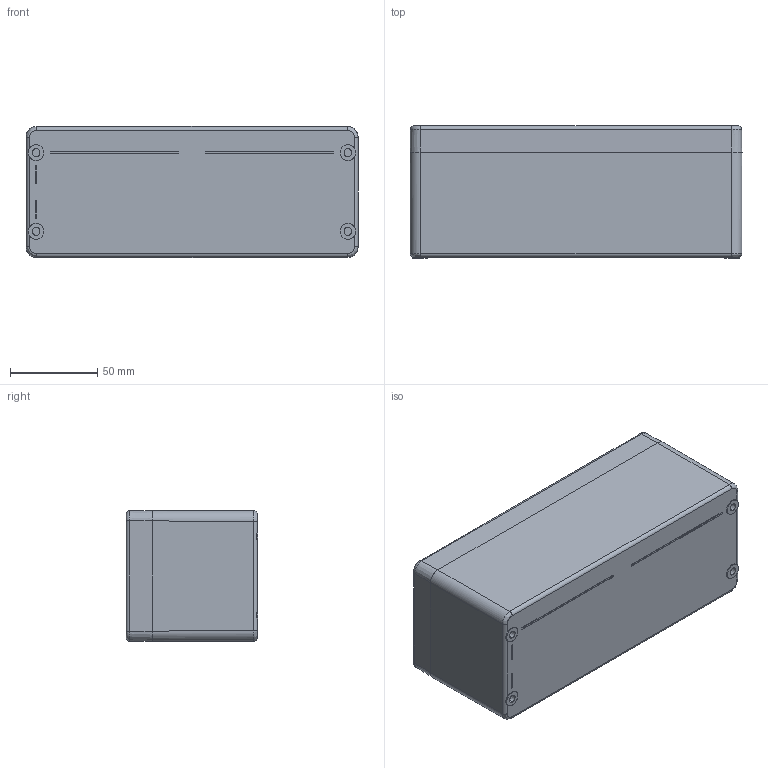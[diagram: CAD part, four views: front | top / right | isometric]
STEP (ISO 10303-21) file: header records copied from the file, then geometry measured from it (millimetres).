
FILE_DESCRIPTION((''),'2;1');
FILE_NAME('4190000050_ASM','2023-01-02T12:25:06',('silke.otte'),(''),'CREO PARAMETRIC BY PTC INC, 2022124','CREO PARAMETRIC BY PTC INC, 2022124','');
FILE_SCHEMA(('AUTOMOTIVE_DESIGN { 1 0 10303 214 1 1 1 1 }'));
Length unit declared in the file: millimetre
Products named in the file (13): 9331034000; EINPRESSMUTTER_M4; EINPRESSMUTTER_M4_AF8; EINPRESSMUTTER_M4_AF9; EINPRESSMUTTER_M4_AF10; EINPRESSMUTTER_M4_AF11; 9331034000_ASM; 9332004000; CP-DICHTUNG; 9614003400_ASM; 9262004000; 9261014000; 4190000050_ASM
Assembly tree (19 placements, depth 3):
  4190000050_ASM
    9331034000_ASM
      9331034000
      EINPRESSMUTTER_M4  x2
      EINPRESSMUTTER_M4_AF8
      EINPRESSMUTTER_M4_AF9
      EINPRESSMUTTER_M4_AF10
      EINPRESSMUTTER_M4_AF11
    9614003400_ASM
      9332004000
      CP-DICHTUNG
    9262004000  x4
    9261014000  x4
Bounding box: 190 x 75.5 x 75 mm (x, y, z)
Volume: 283368.3 mm3; surface area: 144120.7 mm2
Topology: 17 solids, 27 shells, 683 faces, 1809 edges, 1206 vertices
Faces by surface type: plane 285, cone 184, cylinder 166, bspline 24, torus 24
Entity records: 26936 total; most frequent: CARTESIAN_POINT 4052, DIRECTION 3301, ORIENTED_EDGE 2278, PRESENTATION_STYLE_ASSIGNMENT 1419, STYLED_ITEM 1411, CURVE_STYLE 1390, AXIS2_PLACEMENT_3D 1279, EDGE_CURVE 1150
